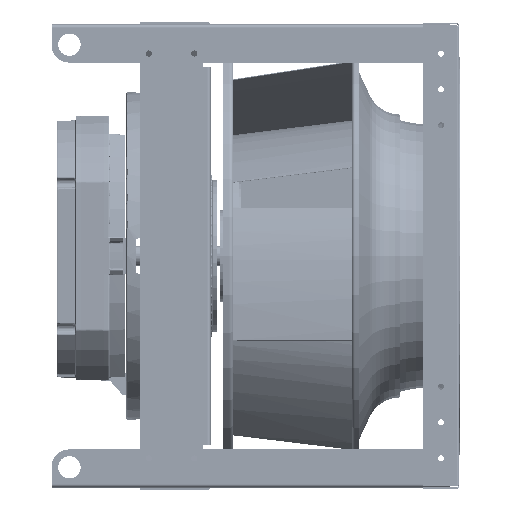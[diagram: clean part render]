
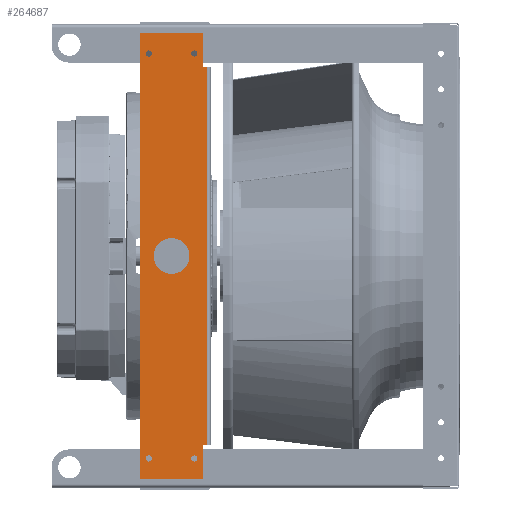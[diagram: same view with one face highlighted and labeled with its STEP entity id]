
A CAD part, front view. The second image highlights one B-rep face of the part: STEP entity #264687.
In plain terms, the highlighted planar face has unit normal (0, -1, 0) as drawn and (0, 0, 1) by its records, which use the part's own axes.
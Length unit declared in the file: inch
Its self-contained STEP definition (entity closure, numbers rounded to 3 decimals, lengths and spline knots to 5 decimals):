
#841 = EDGE_CURVE ( 'NONE', #316414, #79507, #36513, .T. ) ;
#1766 = DIRECTION ( 'NONE',  ( -1., 0., 0. ) ) ;
#11213 = EDGE_LOOP ( 'NONE', ( #355503, #358860, #152712, #22500, #29896, #59541, #359267, #354369 ) ) ;
#13759 = EDGE_CURVE ( 'NONE', #104361, #104361, #393560, .T. ) ;
#16738 = LINE ( 'NONE', #289778, #142429 ) ;
#19606 = VERTEX_POINT ( 'NONE', #303125 ) ;
#22500 = ORIENTED_EDGE ( 'NONE', *, *, #90435, .T. ) ;
#29031 = AXIS2_PLACEMENT_3D ( 'NONE', #413901, #407288, #277402 ) ;
#29896 = ORIENTED_EDGE ( 'NONE', *, *, #366107, .F. ) ;
#30050 = VERTEX_POINT ( 'NONE', #202356 ) ;
#31749 = DIRECTION ( 'NONE',  ( -1., 0., 0. ) ) ;
#33098 = CARTESIAN_POINT ( 'NONE',  ( -12.465, 1.77, 0.135 ) ) ;
#33272 = CIRCLE ( 'NONE', #118913, 0.172 ) ;
#34842 = VERTEX_POINT ( 'NONE', #193009 ) ;
#36513 = LINE ( 'NONE', #202204, #399145 ) ;
#39125 = CARTESIAN_POINT ( 'NONE',  ( 10.555, 1.9775, 0.135 ) ) ;
#50421 = DIRECTION ( 'NONE',  ( -1., 0., 0. ) ) ;
#57126 = ORIENTED_EDGE ( 'NONE', *, *, #176879, .F. ) ;
#59541 = ORIENTED_EDGE ( 'NONE', *, *, #95574, .T. ) ;
#63438 = ORIENTED_EDGE ( 'NONE', *, *, #113199, .F. ) ;
#69732 = VECTOR ( 'NONE', #31749, 39.37008 ) ;
#79507 = VERTEX_POINT ( 'NONE', #84283 ) ;
#84283 = CARTESIAN_POINT ( 'NONE',  ( 12.465, -1.77, 0.135 ) ) ;
#84384 = FACE_BOUND ( 'NONE', #350540, .T. ) ;
#86597 = DIRECTION ( 'NONE',  ( 0., 0., -1. ) ) ;
#90435 = EDGE_CURVE ( 'NONE', #238166, #34842, #256240, .T. ) ;
#92002 = EDGE_CURVE ( 'NONE', #187227, #437717, #389608, .T. ) ;
#95574 = EDGE_CURVE ( 'NONE', #19606, #187227, #241978, .T. ) ;
#98059 = VECTOR ( 'NONE', #285012, 39.37008 ) ;
#98660 = EDGE_LOOP ( 'NONE', ( #57126 ) ) ;
#104361 = VERTEX_POINT ( 'NONE', #137907 ) ;
#113199 = EDGE_CURVE ( 'NONE', #359305, #359305, #128763, .T. ) ;
#113341 = CARTESIAN_POINT ( 'NONE',  ( 11.305, -1.27, 0.135 ) ) ;
#118913 = AXIS2_PLACEMENT_3D ( 'NONE', #417179, #383639, #213478 ) ;
#118956 = CARTESIAN_POINT ( 'NONE',  ( -10.555, 1.9775, 0.135 ) ) ;
#119690 = EDGE_LOOP ( 'NONE', ( #356756 ) ) ;
#121775 = AXIS2_PLACEMENT_3D ( 'NONE', #431865, #286622, #123092 ) ;
#123092 = DIRECTION ( 'NONE',  ( 1., 0., 0. ) ) ;
#128763 = CIRCLE ( 'NONE', #121775, 1. ) ;
#137064 = EDGE_LOOP ( 'NONE', ( #150658 ) ) ;
#137907 = CARTESIAN_POINT ( 'NONE',  ( -11.133, 1.27, 0.135 ) ) ;
#138142 = VERTEX_POINT ( 'NONE', #275743 ) ;
#139430 = DIRECTION ( 'NONE',  ( 1., 0., 0. ) ) ;
#142429 = VECTOR ( 'NONE', #285350, 39.37008 ) ;
#148487 = LINE ( 'NONE', #280573, #98059 ) ;
#149367 = FACE_BOUND ( 'NONE', #187777, .T. ) ;
#150658 = ORIENTED_EDGE ( 'NONE', *, *, #397245, .F. ) ;
#152712 = ORIENTED_EDGE ( 'NONE', *, *, #398162, .T. ) ;
#161988 = AXIS2_PLACEMENT_3D ( 'NONE', #272791, #337787, #205648 ) ;
#166147 = EDGE_CURVE ( 'NONE', #437717, #138142, #312768, .T. ) ;
#170988 = CARTESIAN_POINT ( 'NONE',  ( 11.133, 1.27, 0.135 ) ) ;
#176879 = EDGE_CURVE ( 'NONE', #195762, #195762, #259965, .T. ) ;
#179981 = ORIENTED_EDGE ( 'NONE', *, *, #13759, .F. ) ;
#180562 = DIRECTION ( 'NONE',  ( 1., 0., 0. ) ) ;
#181250 = EDGE_CURVE ( 'NONE', #30050, #30050, #33272, .T. ) ;
#187227 = VERTEX_POINT ( 'NONE', #118956 ) ;
#187777 = EDGE_LOOP ( 'NONE', ( #63438 ) ) ;
#188493 = AXIS2_PLACEMENT_3D ( 'NONE', #113341, #352865, #180562 ) ;
#193009 = CARTESIAN_POINT ( 'NONE',  ( 10.555, 1.77, 0.135 ) ) ;
#195762 = VERTEX_POINT ( 'NONE', #300910 ) ;
#196827 = CARTESIAN_POINT ( 'NONE',  ( -12.465, -1.77, 0.135 ) ) ;
#202204 = CARTESIAN_POINT ( 'NONE',  ( -12.465, -1.77, 0.135 ) ) ;
#202356 = CARTESIAN_POINT ( 'NONE',  ( -11.477, -1.27, 0.135 ) ) ;
#205648 = DIRECTION ( 'NONE',  ( -1., 0., 0. ) ) ;
#213478 = DIRECTION ( 'NONE',  ( -1., 0., 0. ) ) ;
#222650 = CARTESIAN_POINT ( 'NONE',  ( -12.465, 1.77, 0.135 ) ) ;
#225270 = PLANE ( 'NONE',  #379712 ) ;
#238166 = VERTEX_POINT ( 'NONE', #385872 ) ;
#241978 = LINE ( 'NONE', #409896, #69732 ) ;
#253103 = DIRECTION ( 'NONE',  ( 0., -1., 0. ) ) ;
#253809 = DIRECTION ( 'NONE',  ( 0., -1., 0. ) ) ;
#256240 = LINE ( 'NONE', #222650, #430958 ) ;
#259965 = CIRCLE ( 'NONE', #188493, 0.172 ) ;
#264687 = ADVANCED_FACE ( 'NONE', ( #149367, #390977, #285882, #84384, #388781, #292477 ), #225270, .F. ) ;
#272791 = CARTESIAN_POINT ( 'NONE',  ( 11.305, 1.27, 0.135 ) ) ;
#275743 = CARTESIAN_POINT ( 'NONE',  ( -12.465, 1.77, 0.135 ) ) ;
#277402 = DIRECTION ( 'NONE',  ( 1., 0., 0. ) ) ;
#280573 = CARTESIAN_POINT ( 'NONE',  ( 12.465, -1.77, 0.135 ) ) ;
#283664 = CARTESIAN_POINT ( 'NONE',  ( 0., 0., 0.135 ) ) ;
#285012 = DIRECTION ( 'NONE',  ( 0., 1., 0. ) ) ;
#285350 = DIRECTION ( 'NONE',  ( 0., -1., 0. ) ) ;
#285882 = FACE_BOUND ( 'NONE', #119690, .T. ) ;
#286622 = DIRECTION ( 'NONE',  ( 0., 0., 1. ) ) ;
#287404 = LINE ( 'NONE', #39125, #385458 ) ;
#289778 = CARTESIAN_POINT ( 'NONE',  ( -12.465, -1.77, 0.135 ) ) ;
#292477 = FACE_BOUND ( 'NONE', #137064, .T. ) ;
#300910 = CARTESIAN_POINT ( 'NONE',  ( 11.477, -1.27, 0.135 ) ) ;
#303125 = CARTESIAN_POINT ( 'NONE',  ( 10.555, 1.9775, 0.135 ) ) ;
#312768 = LINE ( 'NONE', #33098, #312830 ) ;
#312830 = VECTOR ( 'NONE', #1766, 39.37008 ) ;
#316414 = VERTEX_POINT ( 'NONE', #196827 ) ;
#317652 = VECTOR ( 'NONE', #253103, 39.37008 ) ;
#327867 = CARTESIAN_POINT ( 'NONE',  ( 1., 0., 0.135 ) ) ;
#337787 = DIRECTION ( 'NONE',  ( 0., 0., 1. ) ) ;
#350540 = EDGE_LOOP ( 'NONE', ( #179981 ) ) ;
#352865 = DIRECTION ( 'NONE',  ( 0., 0., 1. ) ) ;
#354369 = ORIENTED_EDGE ( 'NONE', *, *, #166147, .T. ) ;
#355003 = CIRCLE ( 'NONE', #161988, 0.172 ) ;
#355503 = ORIENTED_EDGE ( 'NONE', *, *, #377242, .T. ) ;
#356756 = ORIENTED_EDGE ( 'NONE', *, *, #181250, .F. ) ;
#358860 = ORIENTED_EDGE ( 'NONE', *, *, #841, .T. ) ;
#359267 = ORIENTED_EDGE ( 'NONE', *, *, #92002, .T. ) ;
#359305 = VERTEX_POINT ( 'NONE', #327867 ) ;
#366107 = EDGE_CURVE ( 'NONE', #19606, #34842, #287404, .T. ) ;
#377242 = EDGE_CURVE ( 'NONE', #138142, #316414, #16738, .T. ) ;
#379712 = AXIS2_PLACEMENT_3D ( 'NONE', #283664, #86597, #428946 ) ;
#381273 = VERTEX_POINT ( 'NONE', #170988 ) ;
#383639 = DIRECTION ( 'NONE',  ( 0., 0., 1. ) ) ;
#385458 = VECTOR ( 'NONE', #253809, 39.37008 ) ;
#385872 = CARTESIAN_POINT ( 'NONE',  ( 12.465, 1.77, 0.135 ) ) ;
#388781 = FACE_BOUND ( 'NONE', #98660, .T. ) ;
#389608 = LINE ( 'NONE', #423190, #317652 ) ;
#390977 = FACE_OUTER_BOUND ( 'NONE', #11213, .T. ) ;
#393560 = CIRCLE ( 'NONE', #29031, 0.172 ) ;
#397245 = EDGE_CURVE ( 'NONE', #381273, #381273, #355003, .T. ) ;
#398162 = EDGE_CURVE ( 'NONE', #79507, #238166, #148487, .T. ) ;
#399145 = VECTOR ( 'NONE', #139430, 39.37008 ) ;
#399727 = CARTESIAN_POINT ( 'NONE',  ( -10.555, 1.77, 0.135 ) ) ;
#407288 = DIRECTION ( 'NONE',  ( 0., 0., 1. ) ) ;
#409896 = CARTESIAN_POINT ( 'NONE',  ( 10.555, 1.9775, 0.135 ) ) ;
#413901 = CARTESIAN_POINT ( 'NONE',  ( -11.305, 1.27, 0.135 ) ) ;
#417179 = CARTESIAN_POINT ( 'NONE',  ( -11.305, -1.27, 0.135 ) ) ;
#423190 = CARTESIAN_POINT ( 'NONE',  ( -10.555, 1.9775, 0.135 ) ) ;
#428946 = DIRECTION ( 'NONE',  ( -1., 0., 0. ) ) ;
#430958 = VECTOR ( 'NONE', #50421, 39.37008 ) ;
#431865 = CARTESIAN_POINT ( 'NONE',  ( 0., 0., 0.135 ) ) ;
#437717 = VERTEX_POINT ( 'NONE', #399727 ) ;
